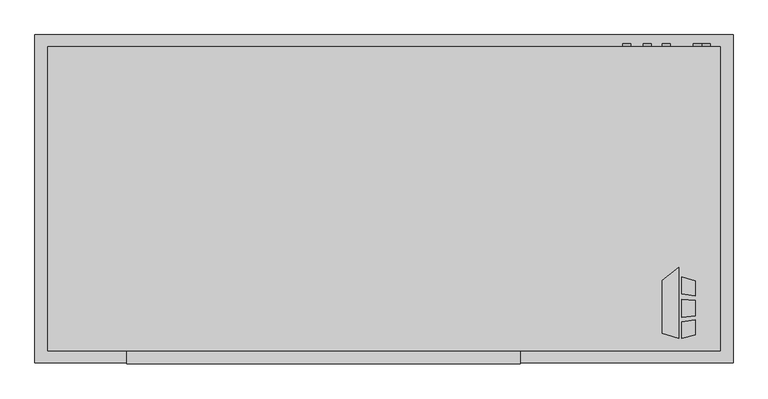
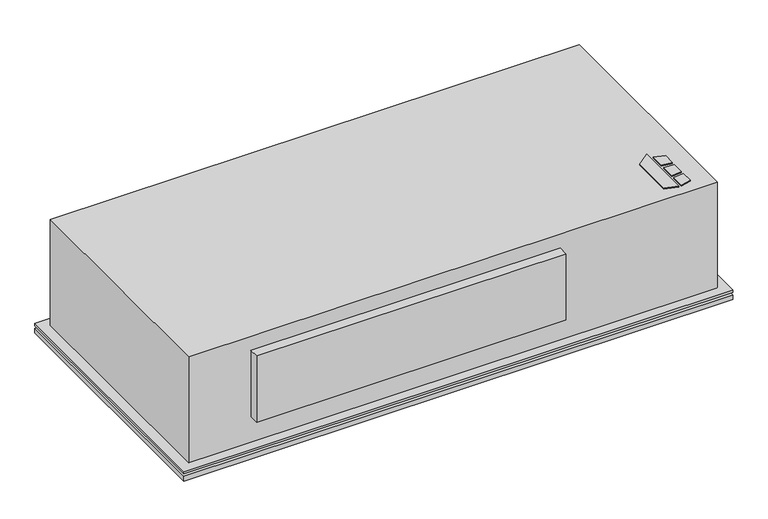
"""IFC4 building model written with IfcOpenShell, lengths in millimetres: proxy geometry, Horizontal_Telescoping_Fan_Coil_Unit_-_CBY_-_IEC_-_4-Pipe_RH_2022 : Size 06 - 277v/60Hz/1Ph - 4/1 Coil."""

import ifcopenshell
import ifcopenshell.guid

model = None  # the IFC model being written
_history = None  # IfcOwnerHistory: only IFC2X3 demands one
_inside = {}  # id of a spatial element -> (the spatial element, [elements in it])
_under = {}  # id of a project, library or spatial element -> (it, [spatial elements below it])
_declared = {}  # id of a project -> (the project, [libraries it declares])
_typed = {}  # id of a type object -> (the type object, [elements of that type])
_made_of = {}  # id of a material, layer set ... -> (it, [elements and type objects made of it])


def new_model(schema):
    """Start an empty IFC model of exactly this schema.

    Asked for "IFC4X3", IfcOpenShell would pick the latest addendum, in which some entities
    have other attributes; the version numbers below select the first issue.
    IFC2X3 requires an IfcOwnerHistory on every rooted entity: one is made here for all.
    """
    global model, _history
    if schema == "IFC4X3":
        model = ifcopenshell.file(schema_version=(4, 3, 0, 0))
    else:
        model = ifcopenshell.file(schema=schema)
    _inside.clear()
    _under.clear()
    _declared.clear()
    _typed.clear()
    _made_of.clear()
    _history = None
    if model.schema == "IFC2X3":
        org = make("IfcOrganization", Name="unknown")
        user = make(
            "IfcPersonAndOrganization",
            ThePerson=make("IfcPerson", FamilyName="unknown"),
            TheOrganization=org,
        )
        app = make(
            "IfcApplication",
            ApplicationDeveloper=org,
            Version="unknown",
            ApplicationFullName="unknown",
            ApplicationIdentifier="unknown",
        )
        _history = make(
            "IfcOwnerHistory",
            OwningUser=user,
            OwningApplication=app,
            ChangeAction="ADDED",
            CreationDate=0,
        )
    return model


def make(cls, **values):
    """One entity of the class cls with the attributes given. An attribute that is None is left unset."""
    return model.create_entity(
        cls, **{name: value for name, value in values.items() if value is not None}
    )


def rooted(cls, **values):
    """An entity with a GlobalId (a new one), such as an element, a storey or a relation."""
    return make(cls, GlobalId=ifcopenshell.guid.new(), OwnerHistory=_history, **values)


def si_unit(unit_type, name, prefix=None):
    """IfcSIUnit, for example si_unit("LENGTHUNIT", "METRE", prefix="MILLI")."""
    return make("IfcSIUnit", UnitType=unit_type, Prefix=prefix, Name=name)


def assignment(units):
    """IfcUnitAssignment: the units of a project."""
    return None if units is None else make("IfcUnitAssignment", Units=units)


def point(xyz):
    """IfcCartesianPoint."""
    return None if xyz is None else make("IfcCartesianPoint", Coordinates=xyz)


def direction(xyz):
    """IfcDirection."""
    return None if xyz is None else make("IfcDirection", DirectionRatios=xyz)


def frame(location, z_axis=None, x_axis=None):
    """IfcAxis2Placement3D, a coordinate frame: its origin and axes. An axis left out is left unset."""
    return make(
        "IfcAxis2Placement3D",
        Location=point(location),
        Axis=direction(z_axis),
        RefDirection=direction(x_axis),
    )


def frame_2d(location, x_axis=None):
    """IfcAxis2Placement2D, a coordinate frame in the plane: its origin and x axis."""
    return make(
        "IfcAxis2Placement2D", Location=point(location), RefDirection=direction(x_axis)
    )


def origin():
    """The frame at (0, 0, 0) with its axes left unset."""
    return frame((0.0, 0.0, 0.0))


def origin_with_axes():
    """The frame at (0, 0, 0) with the z axis (0, 0, 1) and the x axis (1, 0, 0) written out."""
    return frame((0.0, 0.0, 0.0), z_axis=(0.0, 0.0, 1.0), x_axis=(1.0, 0.0, 0.0))


def place(relative_to, where):
    """IfcLocalPlacement: puts the frame where relative to a parent placement (None: the world)."""
    return make(
        "IfcLocalPlacement", PlacementRelTo=relative_to, RelativePlacement=where
    )


def context(
    kind, dimensions, precision=None, world=None, true_north=None, identifier=None
):
    """IfcGeometricRepresentationContext, for example the 3D "Model" context."""
    return make(
        "IfcGeometricRepresentationContext",
        ContextIdentifier=identifier,
        ContextType=kind,
        CoordinateSpaceDimension=dimensions,
        Precision=precision,
        WorldCoordinateSystem=world,
        TrueNorth=true_north,
    )


def project(units=None, contexts=None):
    """IfcProject with its units and contexts."""
    return rooted(
        "IfcProject",
        Name="project",
        RepresentationContexts=contexts,
        UnitsInContext=assignment(units),
    )


def spatial(cls, under=None, at=None, **own):
    """A site, building, storey or space (cls), placed at a placement, below another one or the project."""
    s = rooted(cls, ObjectPlacement=at, **own)
    if under is not None:
        _under.setdefault(under.id(), (under, []))[1].append(s)
    return s


def polyline(points):
    """IfcPolyline through the points."""
    return make("IfcPolyline", Points=[point(p) for p in points])


def circle_curve(where, radius):
    """IfcCircle in the frame where."""
    return make("IfcCircle", Position=where, Radius=radius)


def trimmed(basis, trim1, trim2, sense, master):
    """IfcTrimmedCurve: the piece of a basis curve between two trims."""
    return make(
        "IfcTrimmedCurve",
        BasisCurve=basis,
        Trim1=trim1,
        Trim2=trim2,
        SenseAgreement=sense,
        MasterRepresentation=master,
    )


def segment(curve, same_sense, transition):
    """IfcCompositeCurveSegment."""
    return make(
        "IfcCompositeCurveSegment",
        Transition=transition,
        SameSense=same_sense,
        ParentCurve=curve,
    )


def composite_curve(segments, self_intersect=None):
    """IfcCompositeCurve: segments joined end to end."""
    return make("IfcCompositeCurve", Segments=segments, SelfIntersect=self_intersect)


def outline(outer, holes=None, kind="AREA"):
    """IfcArbitraryClosedProfileDef: a profile drawn as a closed curve; with holes, ...WithVoids."""
    if holes is None:
        return make("IfcArbitraryClosedProfileDef", ProfileType=kind, OuterCurve=outer)
    return make(
        "IfcArbitraryProfileDefWithVoids",
        ProfileType=kind,
        OuterCurve=outer,
        InnerCurves=holes,
    )


def extrude(swept, where, along, depth):
    """IfcExtrudedAreaSolid: the profile swept, set in the frame where, extruded along a direction by depth."""
    return make(
        "IfcExtrudedAreaSolid",
        SweptArea=swept,
        Position=where,
        ExtrudedDirection=direction(along),
        Depth=depth,
    )


def shape(context_of_items, identifier, shape_type, items):
    """IfcShapeRepresentation: the items that make up one representation, for example the "Body"."""
    return make(
        "IfcShapeRepresentation",
        ContextOfItems=context_of_items,
        RepresentationIdentifier=identifier,
        RepresentationType=shape_type,
        Items=items,
    )


def source(mapping_origin, context_of_items, identifier, shape_type, items):
    """IfcRepresentationMap: a shape defined once, which mapped items show again and again."""
    return make(
        "IfcRepresentationMap",
        MappingOrigin=mapping_origin,
        MappedRepresentation=shape(context_of_items, identifier, shape_type, items),
    )


def transform(
    local_origin,
    x_axis=None,
    y_axis=None,
    z_axis=None,
    scale=None,
    scale2=None,
    scale3=None,
    uniform=True,
):
    """IfcCartesianTransformationOperator3D, or its non-uniform kind. x_axis, y_axis, z_axis: its Axis1, 2, 3."""
    if uniform:
        return make(
            "IfcCartesianTransformationOperator3D",
            Axis1=direction(x_axis),
            Axis2=direction(y_axis),
            LocalOrigin=point(local_origin),
            Scale=scale,
            Axis3=direction(z_axis),
        )
    return make(
        "IfcCartesianTransformationOperator3DnonUniform",
        Axis1=direction(x_axis),
        Axis2=direction(y_axis),
        LocalOrigin=point(local_origin),
        Scale=scale,
        Axis3=direction(z_axis),
        Scale2=scale2,
        Scale3=scale3,
    )


def mapped(mapping_source, mapping_target):
    """IfcMappedItem: shows the shape of a source again, moved by a transform."""
    return make(
        "IfcMappedItem", MappingSource=mapping_source, MappingTarget=mapping_target
    )


def made_of(thing, what):
    """Note that an element or type object is made of a material, layer set ...; save() writes the relation."""
    if what is not None:
        _made_of.setdefault(what.id(), (what, []))[1].append(thing)
    return thing


def element(
    cls,
    number,
    at=None,
    inside=None,
    cuts=None,
    type_object=None,
    material=None,
    context=None,
    identifier="Body",
    shape_type=None,
    held_by="IfcProductDefinitionShape",
    body=None,
    shapes=None,
    **own,
):
    """One element of the class cls, such as IfcWall. Its Tag is "e" and its number.

    at: its placement. inside: the storey or other place that contains it. cuts: it is an
    opening in that element (IfcRelVoidsElement). A single representation is given by context,
    identifier, shape_type and body (its items); several are given by shapes. held_by: the class
    of the entity that holds the representations. save() writes the other relations.
    """
    e = rooted(cls, Tag="e%d" % number, ObjectPlacement=at, **own)
    if body is not None:
        shapes = [shape(context, identifier, shape_type, body)]
    if shapes is not None:
        e.Representation = make(held_by, Representations=shapes)
    if inside is not None:
        _inside.setdefault(inside.id(), (inside, []))[1].append(e)
    if cuts is not None:
        rooted(
            "IfcRelVoidsElement", RelatingBuildingElement=cuts, RelatedOpeningElement=e
        )
    if type_object is not None:
        _typed.setdefault(type_object.id(), (type_object, []))[1].append(e)
    return made_of(e, material)


def aggregate(whole, parts):
    """IfcRelAggregates: a whole, such as a stair, and the parts it consists of."""
    return rooted("IfcRelAggregates", RelatingObject=whole, RelatedObjects=parts)


def save(model, path):
    """Write the relations noted so far, then the file.

    IfcRelAggregates (storeys below a building ...), IfcRelContainedInSpatialStructure (elements
    in a storey), IfcRelDefinesByType, IfcRelAssociatesMaterial and IfcRelDeclares: one each for
    every whole, place, type object, material and project.
    """
    for whole, parts in _under.values():
        aggregate(whole, parts)
    for where, things in _inside.values():
        rooted(
            "IfcRelContainedInSpatialStructure",
            RelatedElements=things,
            RelatingStructure=where,
        )
    for kind, things in _typed.values():
        rooted("IfcRelDefinesByType", RelatedObjects=things, RelatingType=kind)
    for what, things in _made_of.values():
        rooted("IfcRelAssociatesMaterial", RelatedObjects=things, RelatingMaterial=what)
    for by, libraries in _declared.values():
        rooted("IfcRelDeclares", RelatingContext=by, RelatedDefinitions=libraries)
    model.write(path)


def mechanical_equipment_507d744f(model_context):
    return source(origin(), model_context, "Body", "SweptSolid", [
        extrude(outline(polyline([(709.3019761, -401.0078476), (741.8602728, -375.5705184), (741.8602728, -517.525), (709.3019761, -507.3054201), (709.3019761, -401.0078476)])), origin_with_axes(), (0.0, 0.0, 1.0), 3.175),
        extrude(outline(polyline([(748.6186058, -428.879852), (748.6186058, -394.3999379), (774.7, -402.5865115), (774.7, -432.0822446), (748.6186058, -428.879852)])), origin_with_axes(), (0.0, 0.0, 1.0), 3.175),
        extrude(outline(polyline([(774.7, -510.5365115), (748.6186058, -517.525), (748.6186058, -484.3036996), (774.7, -480.7618564), (774.7, -510.5365115)])), origin_with_axes(), (0.0, 0.0, 1.0), 3.175),
        extrude(outline(polyline([(774.7, -441.1638277), (774.7, -472.413983), (748.6186058, -475.155248), (748.6186058, -439.2975378), (774.7, -441.1638277)])), origin_with_axes(), (0.0, 0.0, 1.0), 3.175),
        extrude(outline(composite_curve([segment(trimmed(circle_curve(frame_2d((-60.325, 638.175)), 7.9375), [point((-60.325, 646.1125))], [point((-60.325, 630.2375))], False, "CARTESIAN"), True, "CONTINUOUS"), segment(trimmed(circle_curve(frame_2d((-60.325, 638.175)), 7.9375), [point((-60.325, 630.2375))], [point((-60.325, 646.1125))], False, "CARTESIAN"), True, "CONTINUOUS")], self_intersect=False)), frame((0.0, 66.675, 0.0), z_axis=(0.0, 1.0, 0.0), x_axis=(0.0, 0.0, 1.0)), (0.0, 0.0, 1.0), 6.35),
        extrude(outline(composite_curve([segment(trimmed(circle_curve(frame_2d((-95.25, 679.45)), 7.9375), [point((-95.25, 687.3875))], [point((-95.25, 671.5125))], False, "CARTESIAN"), True, "CONTINUOUS"), segment(trimmed(circle_curve(frame_2d((-95.25, 679.45)), 7.9375), [point((-95.25, 671.5125))], [point((-95.25, 687.3875))], False, "CARTESIAN"), True, "CONTINUOUS")], self_intersect=False)), frame((0.0, 66.675, 0.0), z_axis=(0.0, 1.0, 0.0), x_axis=(0.0, 0.0, 1.0)), (0.0, 0.0, 1.0), 6.35),
        extrude(outline(composite_curve([segment(trimmed(circle_curve(frame_2d((-44.45, 717.55)), 7.9375), [point((-44.45, 725.4875))], [point((-44.45, 709.6125))], False, "CARTESIAN"), True, "CONTINUOUS"), segment(trimmed(circle_curve(frame_2d((-44.45, 717.55)), 7.9375), [point((-44.45, 709.6125))], [point((-44.45, 725.4875))], False, "CARTESIAN"), True, "CONTINUOUS")], self_intersect=False)), frame((0.0, 66.675, 0.0), z_axis=(0.0, 1.0, 0.0), x_axis=(0.0, 0.0, 1.0)), (0.0, 0.0, 1.0), 6.35),
        extrude(outline(composite_curve([segment(trimmed(circle_curve(frame_2d((-85.725, 796.925)), 7.9375), [point((-85.725, 804.8625))], [point((-85.725, 788.9875))], False, "CARTESIAN"), True, "CONTINUOUS"), segment(trimmed(circle_curve(frame_2d((-85.725, 796.925)), 7.9375), [point((-85.725, 788.9875))], [point((-85.725, 804.8625))], False, "CARTESIAN"), True, "CONTINUOUS")], self_intersect=False)), frame((0.0, 66.675, 0.0), z_axis=(0.0, 1.0, 0.0), x_axis=(0.0, 0.0, 1.0)), (0.0, 0.0, 1.0), 6.35),
        extrude(outline(composite_curve([segment(trimmed(circle_curve(frame_2d((-260.35, 781.05)), 9.525), [point((-260.35, 790.575))], [point((-260.35, 771.525))], False, "CARTESIAN"), True, "CONTINUOUS"), segment(trimmed(circle_curve(frame_2d((-260.35, 781.05)), 9.525), [point((-260.35, 771.525))], [point((-260.35, 790.575))], False, "CARTESIAN"), True, "CONTINUOUS")], self_intersect=False)), frame((0.0, 66.675, 0.0), z_axis=(0.0, 1.0, 0.0), x_axis=(0.0, 0.0, 1.0)), (0.0, 0.0, 1.0), 6.35),
        extrude(outline(polyline([(850.9, 90.4875), (850.9, -566.7375), (-546.1, -566.7375), (-546.1, 90.4875), (850.9, 90.4875)])), frame((0.0, 0.0, -311.15), z_axis=(0.0, 0.0, 1.0), x_axis=(1.0, 0.0, 0.0)), (0.0, 0.0, 1.0), 12.7),
        extrude(outline(polyline([(850.9, 90.4875), (850.9, -566.7375), (-546.1, -566.7375), (-546.1, 90.4875), (850.9, 90.4875)])), frame((0.0, 0.0, -292.1), z_axis=(0.0, 0.0, 1.0), x_axis=(1.0, 0.0, 0.0)), (0.0, 0.0, 1.0), 6.35),
        extrude(outline(polyline([(825.5, 65.0875), (825.5, -541.3375), (-520.7, -541.3375), (-520.7, 65.0875), (825.5, 65.0875)])), frame((0.0, 0.0, -298.45), z_axis=(0.0, 0.0, 1.0), x_axis=(1.0, 0.0, 0.0)), (0.0, 0.0, 1.0), 6.35),
        extrude(outline(polyline([(425.45, -568.325), (-361.95, -568.325), (-361.95, -542.925), (425.45, -542.925), (425.45, -568.325)])), frame((0.0, 0.0, -215.9), z_axis=(0.0, 0.0, 1.0), x_axis=(1.0, 0.0, 0.0)), (0.0, 0.0, 1.0), 177.8),
        extrude(outline(polyline([(-520.7, 66.675), (825.5, 66.675), (825.5, -542.925), (-520.7, -542.925), (-520.7, 66.675)])), frame((0.0, 0.0, -285.75), z_axis=(0.0, 0.0, 1.0), x_axis=(1.0, 0.0, 0.0)), (0.0, 0.0, 1.0), 285.75),
        extrude(outline(polyline([(723.9, -9.525), (723.9, -263.525), (-419.1, -263.525), (-419.1, -9.525), (723.9, -9.525)])), frame((0.0, 0.0, -317.5), z_axis=(0.0, 0.0, 1.0), x_axis=(1.0, 0.0, 0.0)), (0.0, 0.0, 1.0), 6.35),
    ])


if __name__ == "__main__":
    model = new_model("IFC4")
    model_context = context("Model", 3, world=origin())
    ifc_project = project(units=[si_unit("LENGTHUNIT", "METRE", prefix="MILLI")], contexts=[model_context])
    site = spatial("IfcSite", under=ifc_project)
    building = spatial("IfcBuilding", under=site)
    placement = place(None, origin())
    mechanical_equipment_shape = mechanical_equipment_507d744f(model_context)
    element("IfcBuildingElementProxy", 1, Name="Horizontal_Telescoping_Fan_Coil_Unit_-_CBY_-_IEC_-_4-Pipe_RH_2022 : Size 06 - 277v/60Hz/1Ph - 4/1 Coil", ObjectType="Horizontal_Telescoping_Fan_Coil_Unit_-_CBY_-_IEC_-_4-Pipe_RH_2022 : Size 06 - 277v/60Hz/1Ph - 4/1 Coil", at=placement, inside=building, context=model_context, shape_type="MappedRepresentation", body=[
        mapped(mechanical_equipment_shape, transform((0.0, 0.0, 0.0), x_axis=(1.0, 0.0, 0.0), y_axis=(0.0, 1.0, 0.0), z_axis=(0.0, 0.0, 1.0))),
    ])
    save(model, "model.ifc")
